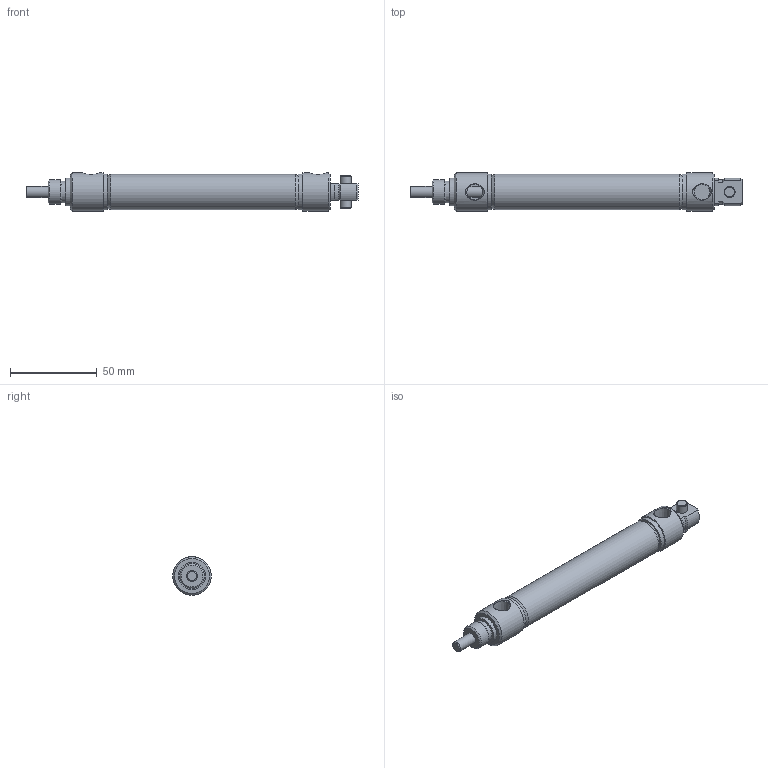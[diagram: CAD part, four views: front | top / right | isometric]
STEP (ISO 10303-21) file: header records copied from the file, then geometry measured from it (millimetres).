
FILE_DESCRIPTION( ( 'STEP AP214' ), '1' );
FILE_NAME( 'p:/temp/worker_471/temp/exporttempdir_3592_173_47ucM/format_0/0750D02-03A.stp', '2020-05-07T14:38:22', ( 'License CC BY-ND 4.0' ), ( 'CADENAS' ), ' ', 'PARTsolutions', ' ' );
FILE_SCHEMA( ( 'AUTOMOTIVE_DESIGN { 1 0 10303 214 1 1 1 1 }' ) );
Length unit declared in the file: inch
Products named in the file (3): 0750D02-03A; _0750D02-03A-0000A00A0b; _0750D02-03A-0000A00A0r
Assembly tree (2 placements, depth 2):
  0750D02-03A
    _0750D02-03A-0000A00A0b
    _0750D02-03A-0000A00A0r
Bounding box: 191.29 x 22.23 x 22.23 mm (x, y, z)
Volume: 35498.5 mm3; surface area: 25176.1 mm2
Topology: 2 solids, 2 shells, 64 faces, 128 edges, 82 vertices
Faces by surface type: plane 24, cylinder 21, cone 19
Full cylindrical faces by diameter (mm): 6.35 x5, 12.609 x1, 14.287 x1, 15.85 x1, 19.05 x2, 20.472 x1, 20.65 x2, 22.225 x2
Entity records: 2302 total; most frequent: CARTESIAN_POINT 499, DIRECTION 274, ORIENTED_EDGE 198, AXIS2_PLACEMENT_3D 126, EDGE_LOOP 106, EDGE_CURVE 99, FACE_OUTER_BOUND 79, VERTEX_POINT 79
